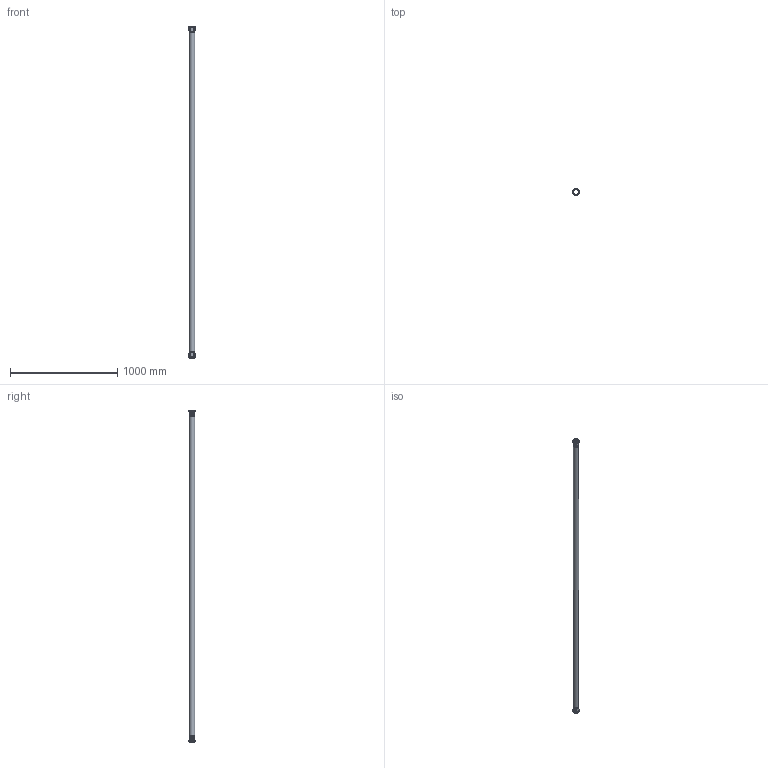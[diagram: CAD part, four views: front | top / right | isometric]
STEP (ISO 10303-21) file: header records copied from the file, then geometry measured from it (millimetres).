
FILE_DESCRIPTION(/* description */ (''),/* implementation_level */ '2;1');
FILE_NAME(/* name */ 'Z:\Geberit\Export\NewStep\Rohr2Muffen_Iassembly\stp\390214.stp',/* time_stamp */ '2014-04-03T17:49:29+02:00',/* author */ ('ML'),/* organization */ (''),/* preprocessor_version */ 'ST-DEVELOPER v15.2',/* originating_system */ 'Autodesk Inventor 2014',/* authorisation */ '');
FILE_SCHEMA (('AUTOMOTIVE_DESIGN { 1 0 10303 214 3 1 1 }'));
Length unit declared in the file: millimetre
Products named in the file (3): 861539; 861582ohne; 390214
Bounding box: 63.5 x 63.5 x 3101.6 mm (x, y, z)
Volume: 956243.8 mm3; surface area: 958494.9 mm2
Topology: 3 solids, 3 shells, 88 faces, 198 edges, 136 vertices
Faces by surface type: torus 48, cylinder 20, plane 18, cone 2
Full cylindrical faces by diameter (mm): 46.15 x3, 50.15 x3, 50.8 x4, 52.8 x2, 54.8 x4, 59.5 x2, 63.5 x2
Entity records: 1958 total; most frequent: CARTESIAN_POINT 928, DIRECTION 180, ORIENTED_EDGE 172, AXIS2_PLACEMENT_3D 90, EDGE_CURVE 86, EDGE_LOOP 76, VERTEX_POINT 70, B_SPLINE_CURVE_WITH_KNOTS 48
